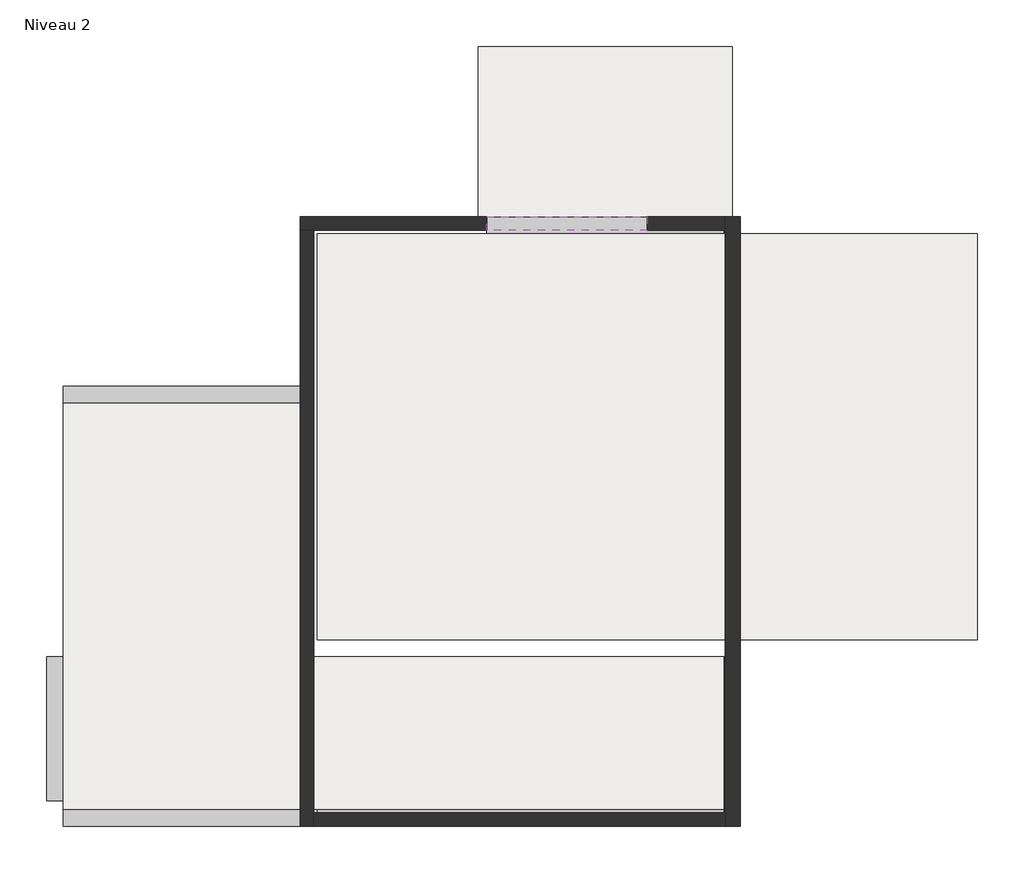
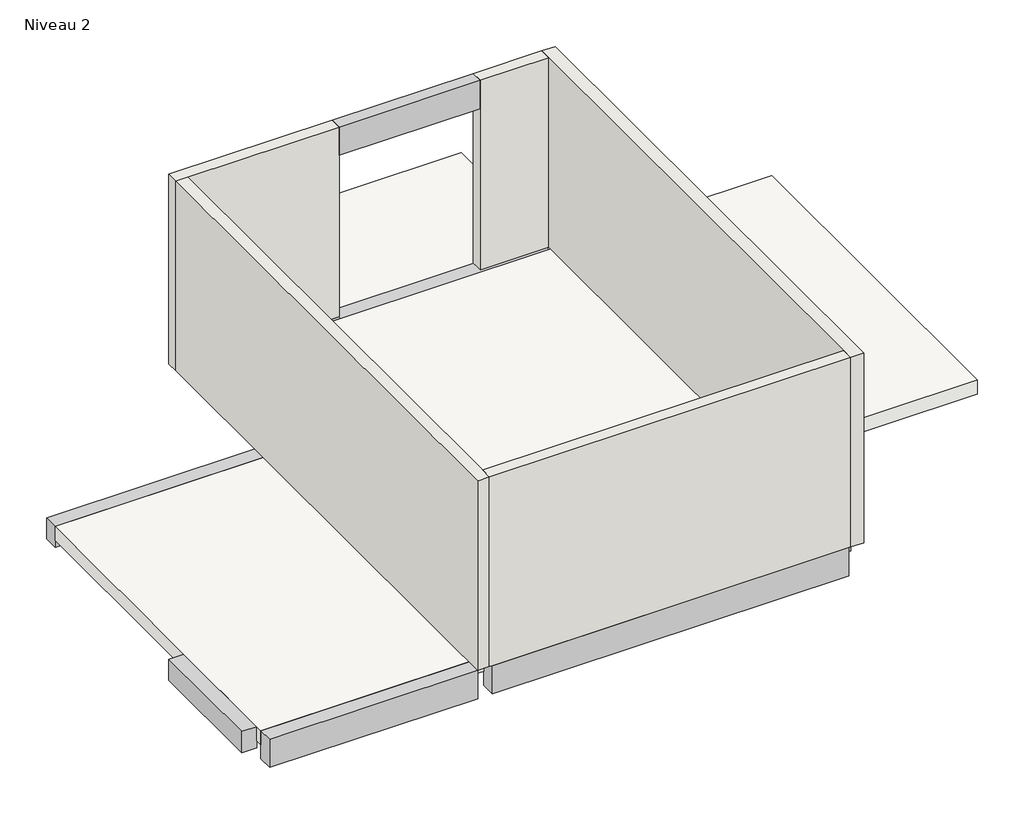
# One storey: 7 beams, 5 walls, 3 slabs.
"""IFC4 building model written with IfcOpenShell, lengths in millimetres."""

from ifc_helpers import new_model, si_unit, frame, origin, place, context, project, spatial, polyline, outline, extrude, faceted_brep, element, save

model = new_model("IFC4")

# Units and contexts
model_context = context("Model", 3, world=origin())
ifc_project = project(units=[si_unit("LENGTHUNIT", "METRE", prefix="MILLI")], contexts=[model_context])

# Site, building, storey
site = spatial("IfcSite", under=ifc_project)
building = spatial("IfcBuilding", under=site)
storey = spatial("IfcBuildingStorey", under=building, Name="Niveau 2", Elevation=0.0)

# Beams
placement = place(None, origin())
element("IfcBeam", 1, ObjectType="EN_BETON - POUTRE v2016 : 160 x 400", at=placement, inside=storey, context=model_context, shape_type="SweptSolid", body=[
    extrude(outline(polyline([(-6175.7482739, 4264.9077015), (-6175.7482739, 4424.9077015), (-4275.7482739, 4424.9077015), (-4275.7482739, 4264.9077015), (-6175.7482739, 4264.9077015)])), frame((0.0, 0.0, 2300.0), z_axis=(0.0, 0.0, 1.0), x_axis=(1.0, 0.0, 0.0)), (0.0, 0.0, 1.0), 400.0),
])
element("IfcBeam", 2, ObjectType="EN_BETON - POUTRE v2016 : 200 x 300", at=placement, inside=storey, context=model_context, shape_type="SweptSolid", body=[
    extrude(outline(polyline([(-11175.7482739, -2475.0922985), (-11375.7482739, -2475.0922985), (-11375.7482739, -775.0922985), (-11175.7482739, -775.0922985), (-11175.7482739, -2475.0922985)])), frame((0.0, 0.0, -300.0), z_axis=(0.0, 0.0, 1.0), x_axis=(1.0, 0.0, 0.0)), (0.0, 0.0, 1.0), 300.0),
])
element("IfcBeam", 3, ObjectType="EN_BETON - POUTRE v2016 : 200 x 300", at=placement, inside=storey, context=model_context, shape_type="Brep", body=[
    faceted_brep([(-11175.7482739, 2424.9077015, 0.0), (-11175.7482739, 2224.9077015, 0.0), (-8375.7482739, 2224.9077015, 0.0), (-8375.7482739, 2424.9077015, 0.0), (-11175.7482739, 2224.9077015, -200.0), (-11175.7482739, 2224.9077015, -300.0), (-8375.7482739, 2224.9077015, -300.0), (-8375.7482739, 2224.9077015, -200.0), (-11175.7482739, 2424.9077015, -300.0), (-8375.7482739, 2424.9077015, -300.0)], [[[0, 1, 2, 3]], [[1, 4, 5, 6, 7, 2]], [[5, 8, 9, 6]], [[8, 0, 3, 9]], [[1, 0, 8, 5, 4]], [[3, 2, 7, 6, 9]]]),
])
element("IfcBeam", 4, ObjectType="EN_BETON - POUTRE v2016 : 200 x 300", at=placement, inside=storey, context=model_context, shape_type="Brep", body=[
    faceted_brep([(-3375.7482739, -2475.0922985, 0.0), (-3175.7482739, -2475.0922985, 0.0), (-3175.7482739, -775.0922985, 0.0), (-3375.7482739, -775.0922985, 0.0), (-3175.7482739, -2475.0922985, -300.0), (-3175.7482739, -775.0922985, -300.0), (-3375.7482739, -2475.0922985, -300.0), (-3375.7482739, -775.0922985, -300.0), (-3375.7482739, -775.0922985, -200.0)], [[[0, 1, 2, 3]], [[1, 4, 5, 2]], [[4, 6, 7, 5]], [[6, 0, 3, 8, 7]], [[1, 0, 6, 4]], [[3, 2, 5, 7, 8]]]),
])
element("IfcBeam", 5, ObjectType="EN_BETON - POUTRE v2016 : 200 x 400", at=placement, inside=storey, context=model_context, shape_type="Brep", body=[
    faceted_brep([(-3375.7482739, 4224.9077015, 0.0), (-3375.7482739, 4424.9077015, 0.0), (-4275.7482739, 4424.9077015, 0.0), (-6175.7482739, 4424.9077015, 0.0), (-6175.7482739, 4224.9077015, 0.0), (-3375.7482739, 4224.9077015, -400.0), (-6175.7482739, 4224.9077015, -400.0), (-3375.7482739, 4424.9077015, -400.0), (-6175.7482739, 4424.9077015, -400.0)], [[[0, 1, 2, 3, 4]], [[5, 0, 4, 6]], [[7, 5, 6, 8]], [[1, 7, 8, 3, 2]], [[1, 0, 5, 7]], [[4, 3, 8, 6]]]),
])
element("IfcBeam", 6, ObjectType="EN_BETON - POUTRE v2016 : 200 x 400", at=placement, inside=storey, context=model_context, shape_type="Brep", body=[
    faceted_brep([(-11175.7482739, -2575.0922985, 0.0), (-11175.7482739, -2775.0922985, 0.0), (-8375.7482739, -2775.0922985, 0.0), (-8375.7482739, -2575.0922985, 0.0), (-11175.7482739, -2775.0922985, -400.0), (-8375.7482739, -2775.0922985, -400.0), (-11175.7482739, -2575.0922985, -400.0), (-8375.7482739, -2575.0922985, -400.0), (-11175.7482739, -2575.0922985, -200.0)], [[[0, 1, 2, 3]], [[1, 4, 5, 2]], [[4, 6, 7, 5]], [[6, 8, 0, 3, 7]], [[1, 0, 8, 6, 4]], [[3, 2, 5, 7]]]),
])
element("IfcBeam", 7, ObjectType="EN_BETON - POUTRE v2016 : 200 x 400", at=placement, inside=storey, context=model_context, shape_type="Brep", body=[
    faceted_brep([(-8175.7482739, -2575.0922985, 0.0), (-8175.7482739, -2775.0922985, 0.0), (-3375.7482739, -2775.0922985, 0.0), (-3375.7482739, -2575.0922985, 0.0), (-8175.7482739, -2775.0922985, -400.0), (-3375.7482739, -2775.0922985, -400.0), (-8175.7482739, -2575.0922985, -400.0), (-3375.7482739, -2575.0922985, -400.0), (-3375.7482739, -2575.0922985, -200.0)], [[[0, 1, 2, 3]], [[1, 4, 5, 2]], [[4, 6, 7, 5]], [[6, 0, 3, 8, 7]], [[1, 0, 6, 4]], [[3, 2, 5, 7, 8]]]),
])

# Slabs
element("IfcSlab", 8, ObjectType="Générique  200 mm", at=placement, inside=storey, context=model_context, shape_type="Brep", body=[
    faceted_brep([(-3275.7482739, 4424.9077015, -200.0), (-6275.7482739, 4424.9077015, -200.0), (-6275.7482739, 6437.0753349, -200.0), (-3275.7482739, 6437.0753349, -200.0), (-3275.7482739, 4424.9077015, 0.0), (-3275.7482739, 6437.0753349, 0.0), (-6275.7482739, 6437.0753349, 0.0), (-6275.7482739, 4424.9077015, 0.0), (-6175.7482739, 4424.9077015, 0.0), (-3375.7482739, 4424.9077015, 0.0)], [[[0, 1, 2, 3]], [[4, 5, 6, 7, 8, 9]], [[1, 0, 4, 9, 8, 7]], [[2, 1, 7, 6]], [[3, 2, 6, 5]], [[0, 3, 5, 4]]]),
])
element("IfcSlab", 9, ObjectType="Générique  200 mm", at=placement, inside=storey, context=model_context, shape_type="Brep", body=[
    faceted_brep([(-8175.7482739, 4224.9077015, -200.0), (-375.7482739, 4224.9077015, -200.0), (-375.7482739, -575.0922985, -200.0), (-8175.7482739, -575.0922985, -200.0), (-8175.7482739, 4224.9077015, 0.0), (-8175.7482739, -575.0922985, 0.0), (-375.7482739, -575.0922985, 0.0), (-375.7482739, 4224.9077015, 0.0), (-3275.7482739, 4224.9077015, 0.0), (-3375.7482739, 4224.9077015, 0.0), (-6175.7482739, 4224.9077015, 0.0), (-6275.7482739, 4224.9077015, 0.0)], [[[0, 1, 2, 3]], [[4, 5, 6, 7, 8, 9, 10, 11]], [[1, 0, 4, 11, 10, 9, 8, 7]], [[2, 1, 7, 6]], [[3, 2, 6, 5]], [[0, 3, 5, 4]]]),
])
element("IfcSlab", 10, ObjectType="Générique  200 mm", at=placement, inside=storey, context=model_context, shape_type="Brep", body=[
    faceted_brep([(-11175.7482739, 2224.9077015, -200.0), (-8375.7482739, 2224.9077015, -200.0), (-8375.7482739, -775.0922985, -200.0), (-3375.7482739, -775.0922985, -200.0), (-3375.7482739, -2575.0922985, -200.0), (-8175.7482739, -2575.0922985, -200.0), (-8375.7482739, -2575.0922985, -200.0), (-11175.7482739, -2575.0922985, -200.0), (-11175.7482739, 2224.9077015, 0.0), (-11175.7482739, -775.0922985, 0.0), (-11175.7482739, -2475.0922985, 0.0), (-11175.7482739, -2575.0922985, 0.0), (-8375.7482739, -2575.0922985, 0.0), (-8175.7482739, -2575.0922985, 0.0), (-3375.7482739, -2575.0922985, 0.0), (-3375.7482739, -2475.0922985, 0.0), (-3375.7482739, -775.0922985, 0.0), (-8375.7482739, -775.0922985, 0.0), (-8375.7482739, 2224.9077015, 0.0)], [[[0, 1, 2, 3, 4, 5, 6, 7]], [[8, 9, 10, 11, 12, 13, 14, 15, 16, 17, 18]], [[1, 0, 8, 18]], [[2, 1, 18, 17]], [[3, 2, 17, 16]], [[4, 3, 16, 15, 14]], [[7, 6, 5, 4, 14, 13, 12, 11]], [[0, 7, 11, 10, 9, 8]]]),
])

# Walls
element("IfcWall", 11, ObjectType="Générique - 180", at=placement, inside=storey, context=model_context, shape_type="Brep", body=[
    faceted_brep([(-3175.7482739, -2775.0922985, 0.0), (-3175.7482739, -2475.0922985, 0.0), (-3175.7482739, -775.0922985, 0.0), (-3175.7482739, 4424.9077015, 0.0), (-3175.7482739, 4424.9077015, 2700.0), (-3175.7482739, -2775.0922985, 2700.0), (-3355.7482739, -2775.0922985, 0.0), (-3355.7482739, -2775.0922985, 2700.0), (-3355.7482739, -2615.0922985, 2700.0), (-3355.7482739, 4264.9077015, 2700.0), (-3355.7482739, 4424.9077015, 2700.0), (-3355.7482739, 4424.9077015, 0.0), (-3355.7482739, 4264.9077015, 0.0), (-3355.7482739, -2615.0922985, 0.0), (-3275.7482739, 4424.9077015, 0.0)], [[[0, 1, 2, 3, 4, 5]], [[6, 7, 8, 9, 10, 11, 12, 13]], [[3, 2, 1, 0, 6, 13, 12, 11, 14]], [[5, 4, 10, 9, 8, 7]], [[4, 3, 14, 11, 10]], [[0, 5, 7, 6]]]),
])
element("IfcWall", 12, ObjectType="Générique - 160", at=placement, inside=storey, context=model_context, shape_type="Brep", body=[
    faceted_brep([(-3355.7482739, 4424.9077015, 0.0), (-3375.7482739, 4424.9077015, 0.0), (-4275.7482739, 4424.9077015, 0.0), (-4275.7482739, 4424.9077015, 2300.0), (-4275.7482739, 4424.9077015, 2700.0), (-3355.7482739, 4424.9077015, 2700.0), (-3355.7482739, 4264.9077015, 0.0), (-3355.7482739, 4264.9077015, 2700.0), (-4275.7482739, 4264.9077015, 2700.0), (-4275.7482739, 4264.9077015, 2300.0), (-4275.7482739, 4264.9077015, 0.0)], [[[0, 1, 2, 3, 4, 5]], [[6, 7, 8, 9, 10]], [[2, 1, 0, 6, 10]], [[4, 3, 2, 10, 9, 8]], [[5, 4, 8, 7]], [[0, 5, 7, 6]]]),
])
element("IfcWall", 13, ObjectType="Générique - 160", at=placement, inside=storey, context=model_context, shape_type="Brep", body=[
    faceted_brep([(-6175.7482739, 4424.9077015, 0.0), (-6275.7482739, 4424.9077015, 0.0), (-8375.7482739, 4424.9077015, 0.0), (-8375.7482739, 4424.9077015, 2700.0), (-6175.7482739, 4424.9077015, 2700.0), (-6175.7482739, 4424.9077015, 2300.0), (-6175.7482739, 4264.9077015, 0.0), (-6175.7482739, 4264.9077015, 2300.0), (-6175.7482739, 4264.9077015, 2700.0), (-8215.7482739, 4264.9077015, 2700.0), (-8375.7482739, 4264.9077015, 2700.0), (-8375.7482739, 4264.9077015, 0.0), (-8215.7482739, 4264.9077015, 0.0)], [[[0, 1, 2, 3, 4, 5]], [[6, 7, 8, 9, 10, 11, 12]], [[2, 1, 0, 6, 12, 11]], [[4, 3, 10, 9, 8]], [[0, 5, 4, 8, 7, 6]], [[3, 2, 11, 10]]]),
])
element("IfcWall", 14, ObjectType="Générique - 160", at=placement, inside=storey, context=model_context, shape_type="Brep", body=[
    faceted_brep([(-8375.7482739, 4264.9077015, 0.0), (-8375.7482739, -2575.0922985, 0.0), (-8375.7482739, -2775.0922985, 0.0), (-8375.7482739, -2775.0922985, 2700.0), (-8375.7482739, 4264.9077015, 2700.0), (-8215.7482739, 4264.9077015, 0.0), (-8215.7482739, 4264.9077015, 2700.0), (-8215.7482739, -2615.0922985, 2700.0), (-8215.7482739, -2775.0922985, 2700.0), (-8215.7482739, -2775.0922985, 0.0), (-8215.7482739, -2615.0922985, 0.0)], [[[0, 1, 2, 3, 4]], [[5, 6, 7, 8, 9, 10]], [[2, 1, 0, 5, 10, 9]], [[4, 3, 8, 7, 6]], [[0, 4, 6, 5]], [[3, 2, 9, 8]]]),
])
element("IfcWall", 15, ObjectType="Générique - 160", at=placement, inside=storey, context=model_context, shape_type="Brep", body=[
    faceted_brep([(-3355.7482739, -2615.0922985, 0.0), (-8215.7482739, -2615.0922985, 0.0), (-8215.7482739, -2615.0922985, 2700.0), (-3355.7482739, -2615.0922985, 2700.0), (-3355.7482739, -2775.0922985, 0.0), (-3355.7482739, -2775.0922985, 2700.0), (-8215.7482739, -2775.0922985, 2700.0), (-8215.7482739, -2775.0922985, 0.0), (-8175.7482739, -2775.0922985, 0.0), (-3375.7482739, -2775.0922985, 0.0)], [[[0, 1, 2, 3]], [[4, 5, 6, 7, 8, 9]], [[1, 0, 4, 9, 8, 7]], [[3, 2, 6, 5]], [[0, 3, 5, 4]], [[2, 1, 7, 6]]]),
])

save(model, "model.ifc")
